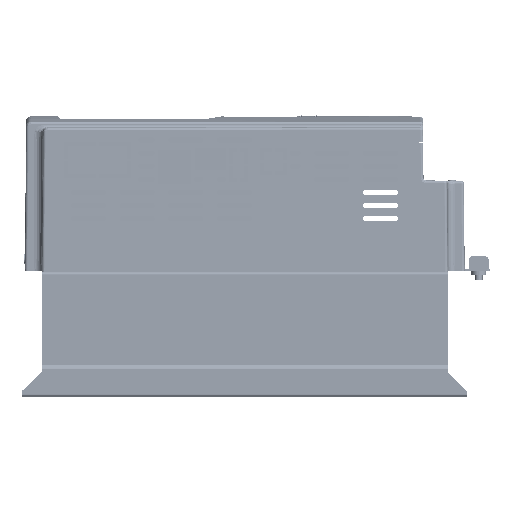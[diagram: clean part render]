
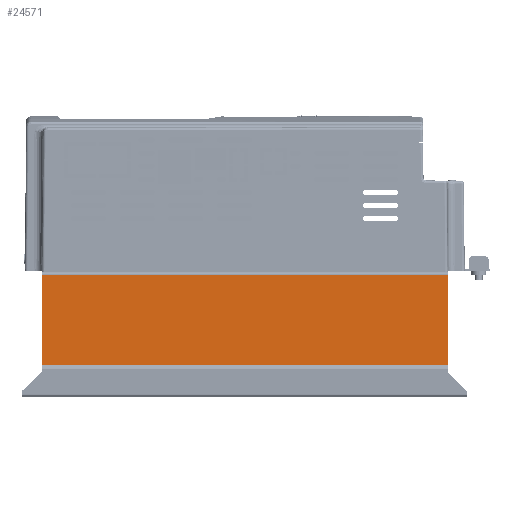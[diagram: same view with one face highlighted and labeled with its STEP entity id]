
A CAD part, left-side view. The second image highlights one B-rep face of the part: STEP entity #24571.
In plain terms, the highlighted planar face has unit normal (-1, 0, 0).
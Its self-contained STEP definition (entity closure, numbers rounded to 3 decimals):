
#19289=DIRECTION('',(0.,-1.,0.));
#19290=VECTOR('',#19289,216.974);
#19291=CARTESIAN_POINT('',(0.2,108.474,
-51.119));
#19292=LINE('',#19291,#19290);
#19296=DIRECTION('',(0.,0.,1.));
#19297=VECTOR('',#19296,48.169);
#19298=CARTESIAN_POINT('',(0.2,108.474,
-51.119));
#19299=LINE('',#19298,#19297);
#19303=DIRECTION('',(0.,1.,0.));
#19304=VECTOR('',#19303,216.974);
#19305=CARTESIAN_POINT('',(0.2,-108.5,-2.95));
#19306=LINE('',#19305,#19304);
#19967=DIRECTION('',(0.,0.,1.));
#19968=VECTOR('',#19967,48.169);
#19969=CARTESIAN_POINT('',(0.2,-108.5,
-51.119));
#19970=LINE('',#19969,#19968);
#22649=CARTESIAN_POINT('',(0.2,108.474,
-51.119));
#22650=VERTEX_POINT('',#22649);
#22653=CARTESIAN_POINT('',(0.2,-108.5,
-51.119));
#22654=VERTEX_POINT('',#22653);
#22655=CARTESIAN_POINT('',(0.2,-108.5,-2.95));
#22656=CARTESIAN_POINT('',(0.2,108.474,-2.95));
#22657=VERTEX_POINT('',#22655);
#22658=VERTEX_POINT('',#22656);
#24557=CARTESIAN_POINT('',(0.2,119.,-51.119));
#24558=DIRECTION('',(1.,0.,0.));
#24559=DIRECTION('',(0.,0.,1.));
#24560=AXIS2_PLACEMENT_3D('',#24557,#24558,#24559);
#24561=PLANE('',#24560);
#24563=ORIENTED_EDGE('',*,*,#24562,.F.);
#24565=ORIENTED_EDGE('',*,*,#24564,.F.);
#24566=ORIENTED_EDGE('',*,*,#24552,.F.);
#24568=ORIENTED_EDGE('',*,*,#24567,.T.);
#24569=EDGE_LOOP('',(#24563,#24565,#24566,#24568));
#24570=FACE_OUTER_BOUND('',#24569,.F.);
#24552=EDGE_CURVE('',#22650,#22654,#19292,.T.);
#24562=EDGE_CURVE('',#22657,#22658,#19306,.T.);
#24564=EDGE_CURVE('',#22654,#22657,#19970,.T.);
#24567=EDGE_CURVE('',#22650,#22658,#19299,.T.);
#24571=ADVANCED_FACE('',(#24570),#24561,.F.);
